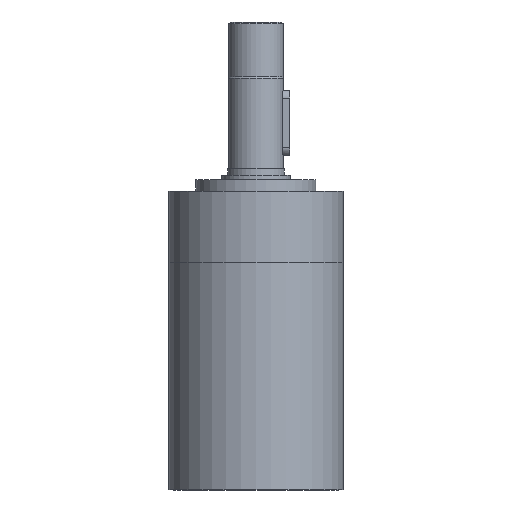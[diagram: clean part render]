
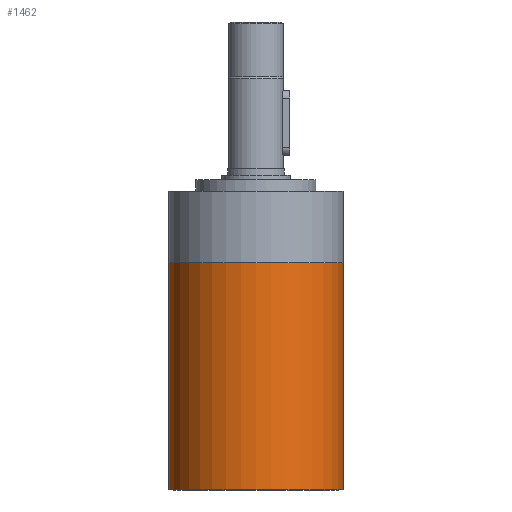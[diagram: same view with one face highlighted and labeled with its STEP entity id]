
A CAD part, left-side view. The second image highlights one B-rep face of the part: STEP entity #1462.
In plain terms, the highlighted cylindrical face has radius 16 mm (diameter 32 mm), a full revolution.
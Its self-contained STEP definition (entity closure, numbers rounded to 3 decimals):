
#1462=ADVANCED_FACE('',(#1848,#1849),#1750,.T.);
#1750=CYLINDRICAL_SURFACE('',#4601,16.);
#1848=FACE_BOUND('',#2160,.T.);
#1849=FACE_BOUND('',#2161,.T.);
#2160=EDGE_LOOP('',(#2625));
#2161=EDGE_LOOP('',(#2626));
#2625=ORIENTED_EDGE('',*,*,#3935,.F.);
#2626=ORIENTED_EDGE('',*,*,#3936,.T.);
#3565=VERTEX_POINT('',#5957);
#3566=VERTEX_POINT('',#5959);
#3935=EDGE_CURVE('',#3565,#3565,#4405,.T.);
#3936=EDGE_CURVE('',#3566,#3566,#4406,.T.);
#4405=CIRCLE('',#4599,16.);
#4406=CIRCLE('',#4600,16.);
#4599=AXIS2_PLACEMENT_3D('',#5956,#5032,#5033);
#4600=AXIS2_PLACEMENT_3D('',#5958,#5034,#5035);
#4601=AXIS2_PLACEMENT_3D('',#5960,#5036,#5037);
#5032=DIRECTION('',(0.,0.,-1.));
#5033=DIRECTION('',(1.,0.,0.));
#5034=DIRECTION('',(0.,0.,-1.));
#5035=DIRECTION('',(1.,0.,0.));
#5036=DIRECTION('',(0.,0.,1.));
#5037=DIRECTION('',(1.,0.,0.));
#5956=CARTESIAN_POINT('',(0.,0.,0.));
#5957=CARTESIAN_POINT('',(16.,0.,0.));
#5958=CARTESIAN_POINT('',(0.,0.,41.699));
#5959=CARTESIAN_POINT('',(16.,0.,41.699));
#5960=CARTESIAN_POINT('',(0.,0.,41.7));
